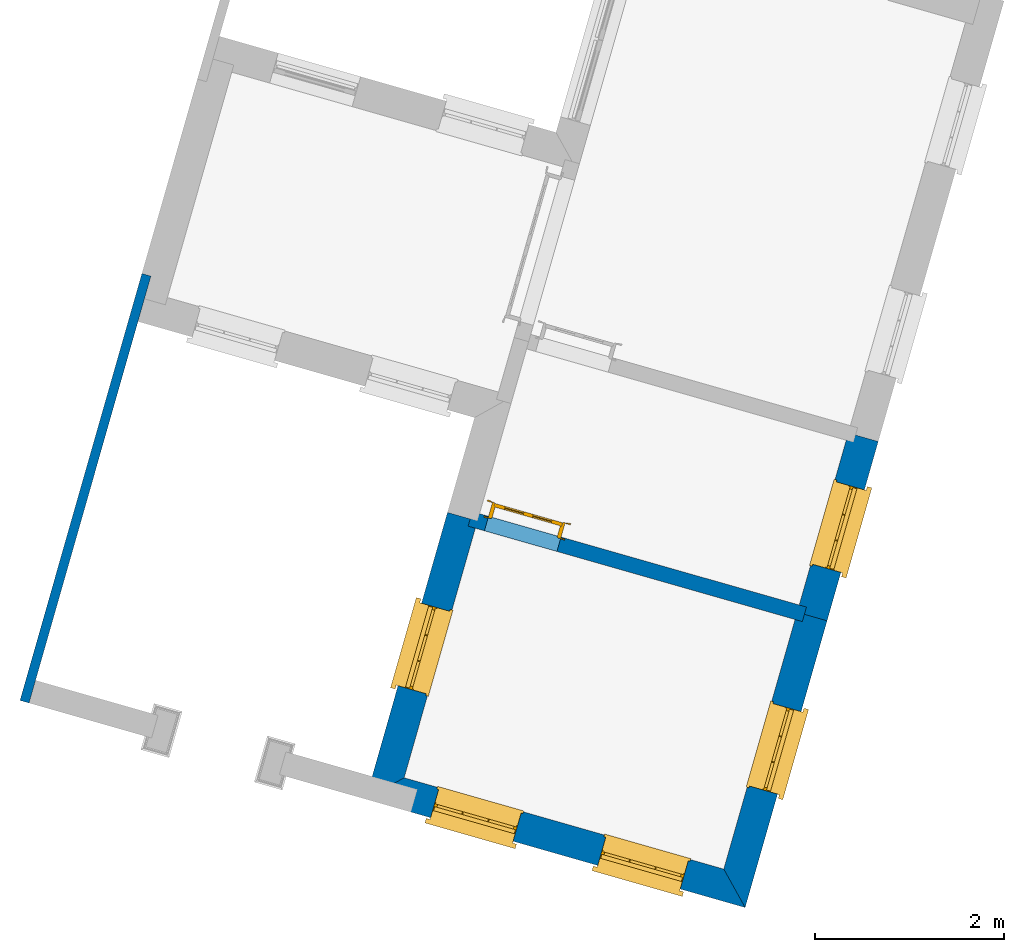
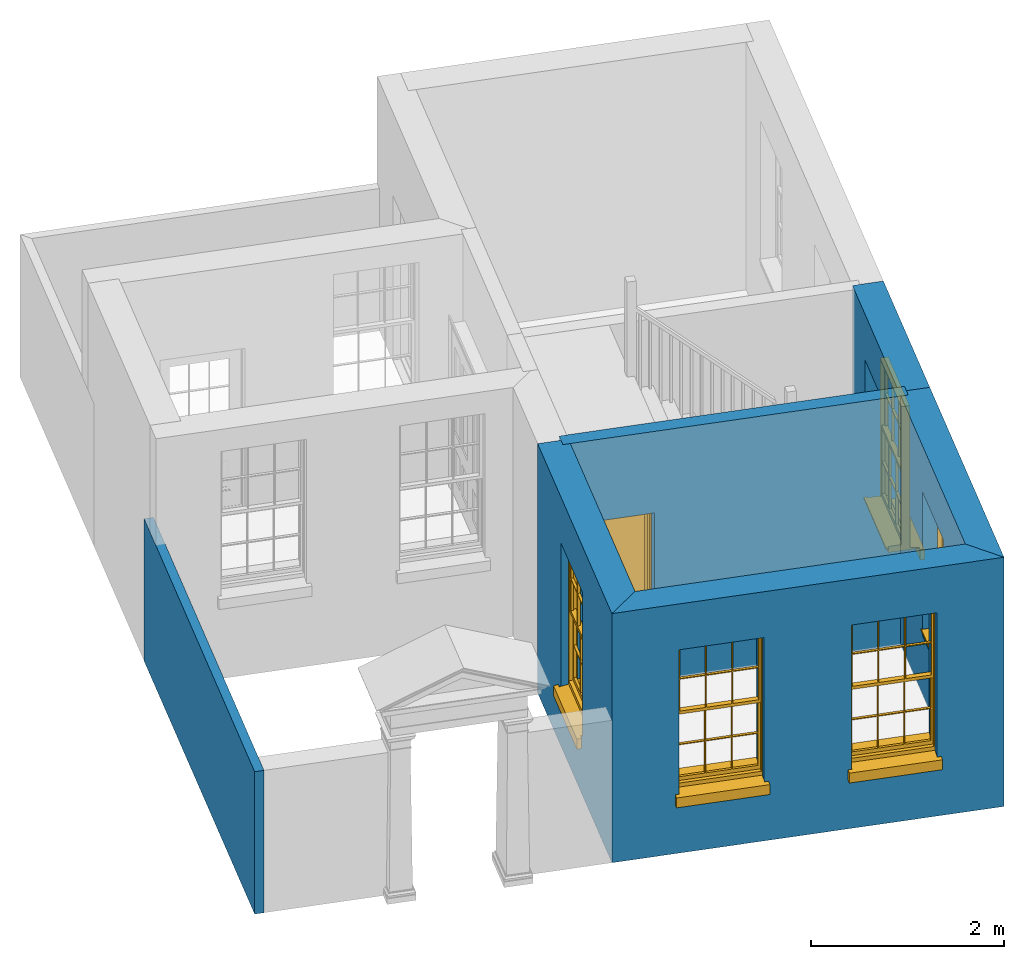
# One storey, part 3 of 7: 6 walls, 5 windows, 1 door, 6 openings.
"""IFC4 building model written with IfcOpenShell, lengths in metres."""

import ifcopenshell
import ifcopenshell.guid

model = None  # the IFC model being written
_history = None  # IfcOwnerHistory: only IFC2X3 demands one
_inside = {}  # id of a spatial element -> (the spatial element, [elements in it])
_under = {}  # id of a project, library or spatial element -> (it, [spatial elements below it])
_declared = {}  # id of a project -> (the project, [libraries it declares])
_typed = {}  # id of a type object -> (the type object, [elements of that type])
_made_of = {}  # id of a material, layer set ... -> (it, [elements and type objects made of it])


def new_model(schema):
    """Start an empty IFC model of exactly this schema.

    Asked for "IFC4X3", IfcOpenShell would pick the latest addendum, in which some entities
    have other attributes; the version numbers below select the first issue.
    IFC2X3 requires an IfcOwnerHistory on every rooted entity: one is made here for all.
    """
    global model, _history
    if schema == "IFC4X3":
        model = ifcopenshell.file(schema_version=(4, 3, 0, 0))
    else:
        model = ifcopenshell.file(schema=schema)
    _inside.clear()
    _under.clear()
    _declared.clear()
    _typed.clear()
    _made_of.clear()
    _history = None
    if model.schema == "IFC2X3":
        org = make("IfcOrganization", Name="unknown")
        user = make(
            "IfcPersonAndOrganization",
            ThePerson=make("IfcPerson", FamilyName="unknown"),
            TheOrganization=org,
        )
        app = make(
            "IfcApplication",
            ApplicationDeveloper=org,
            Version="unknown",
            ApplicationFullName="unknown",
            ApplicationIdentifier="unknown",
        )
        _history = make(
            "IfcOwnerHistory",
            OwningUser=user,
            OwningApplication=app,
            ChangeAction="ADDED",
            CreationDate=0,
        )
    return model


def make(cls, **values):
    """One entity of the class cls with the attributes given. An attribute that is None is left unset."""
    return model.create_entity(
        cls, **{name: value for name, value in values.items() if value is not None}
    )


def rooted(cls, **values):
    """An entity with a GlobalId (a new one), such as an element, a storey or a relation."""
    return make(cls, GlobalId=ifcopenshell.guid.new(), OwnerHistory=_history, **values)


def si_unit(unit_type, name, prefix=None):
    """IfcSIUnit, for example si_unit("LENGTHUNIT", "METRE", prefix="MILLI")."""
    return make("IfcSIUnit", UnitType=unit_type, Prefix=prefix, Name=name)


def assignment(units):
    """IfcUnitAssignment: the units of a project."""
    return None if units is None else make("IfcUnitAssignment", Units=units)


def point(xyz):
    """IfcCartesianPoint."""
    return None if xyz is None else make("IfcCartesianPoint", Coordinates=xyz)


def direction(xyz):
    """IfcDirection."""
    return None if xyz is None else make("IfcDirection", DirectionRatios=xyz)


def frame(location, z_axis=None, x_axis=None):
    """IfcAxis2Placement3D, a coordinate frame: its origin and axes. An axis left out is left unset."""
    return make(
        "IfcAxis2Placement3D",
        Location=point(location),
        Axis=direction(z_axis),
        RefDirection=direction(x_axis),
    )


def origin():
    """The frame at (0, 0, 0) with its axes left unset."""
    return frame((0.0, 0.0, 0.0))


def origin_with_axes():
    """The frame at (0, 0, 0) with the z axis (0, 0, 1) and the x axis (1, 0, 0) written out."""
    return frame((0.0, 0.0, 0.0), z_axis=(0.0, 0.0, 1.0), x_axis=(1.0, 0.0, 0.0))


def place(relative_to, where):
    """IfcLocalPlacement: puts the frame where relative to a parent placement (None: the world)."""
    return make(
        "IfcLocalPlacement", PlacementRelTo=relative_to, RelativePlacement=where
    )


def context(
    kind, dimensions, precision=None, world=None, true_north=None, identifier=None
):
    """IfcGeometricRepresentationContext, for example the 3D "Model" context."""
    return make(
        "IfcGeometricRepresentationContext",
        ContextIdentifier=identifier,
        ContextType=kind,
        CoordinateSpaceDimension=dimensions,
        Precision=precision,
        WorldCoordinateSystem=world,
        TrueNorth=true_north,
    )


def subcontext(parent, identifier, kind, view, scale=None):
    """IfcGeometricRepresentationSubContext, for example "Body" below "Model"."""
    return make(
        "IfcGeometricRepresentationSubContext",
        ContextIdentifier=identifier,
        ContextType=kind,
        ParentContext=parent,
        TargetScale=scale,
        TargetView=view,
    )


def project(units=None, contexts=None):
    """IfcProject with its units and contexts."""
    return rooted(
        "IfcProject",
        Name="project",
        RepresentationContexts=contexts,
        UnitsInContext=assignment(units),
    )


def spatial(cls, under=None, at=None, **own):
    """A site, building, storey or space (cls), placed at a placement, below another one or the project."""
    s = rooted(cls, ObjectPlacement=at, **own)
    if under is not None:
        _under.setdefault(under.id(), (under, []))[1].append(s)
    return s


def polyline(points):
    """IfcPolyline through the points."""
    return make("IfcPolyline", Points=[point(p) for p in points])


def outline(outer, holes=None, kind="AREA"):
    """IfcArbitraryClosedProfileDef: a profile drawn as a closed curve; with holes, ...WithVoids."""
    if holes is None:
        return make("IfcArbitraryClosedProfileDef", ProfileType=kind, OuterCurve=outer)
    return make(
        "IfcArbitraryProfileDefWithVoids",
        ProfileType=kind,
        OuterCurve=outer,
        InnerCurves=holes,
    )


def extrude(swept, where, along, depth):
    """IfcExtrudedAreaSolid: the profile swept, set in the frame where, extruded along a direction by depth."""
    return make(
        "IfcExtrudedAreaSolid",
        SweptArea=swept,
        Position=where,
        ExtrudedDirection=direction(along),
        Depth=depth,
    )


def faces_of(points, faces, orient=None, outer=None):
    """IfcFace entities. A face is a list of loops; a loop is a list of indices into points, from 0.

    orient and outer hold one flag for each loop. By default every Orientation is true, the
    first loop of a face is its IfcFaceOuterBound and the others are IfcFaceBound.
    """
    made = []
    for i, loops in enumerate(faces):
        bounds = []
        for j, loop in enumerate(loops):
            is_outer = j == 0 if outer is None else outer[i][j]
            bounds.append(
                make(
                    "IfcFaceOuterBound" if is_outer else "IfcFaceBound",
                    Bound=make("IfcPolyLoop", Polygon=[points[k] for k in loop]),
                    Orientation=True if orient is None else orient[i][j],
                )
            )
        made.append(make("IfcFace", Bounds=bounds))
    return made


def faceted_brep(points, faces, orient=None, outer=None, voids=None):
    """IfcFacetedBrep: a solid bounded by flat faces; with voids (closed shells), ...WithVoids."""
    shared = [point(p) for p in points]
    hull = make("IfcClosedShell", CfsFaces=faces_of(shared, faces, orient, outer))
    if voids is None:
        return make("IfcFacetedBrep", Outer=hull)
    return make(
        "IfcFacetedBrepWithVoids",
        Outer=hull,
        Voids=[
            make(cls, CfsFaces=faces_of(shared, fs, o, b)) for cls, fs, o, b in voids
        ],
    )


def shape(context_of_items, identifier, shape_type, items):
    """IfcShapeRepresentation: the items that make up one representation, for example the "Body"."""
    return make(
        "IfcShapeRepresentation",
        ContextOfItems=context_of_items,
        RepresentationIdentifier=identifier,
        RepresentationType=shape_type,
        Items=items,
    )


def source(mapping_origin, context_of_items, identifier, shape_type, items):
    """IfcRepresentationMap: a shape defined once, which mapped items show again and again."""
    return make(
        "IfcRepresentationMap",
        MappingOrigin=mapping_origin,
        MappedRepresentation=shape(context_of_items, identifier, shape_type, items),
    )


def transform(
    local_origin,
    x_axis=None,
    y_axis=None,
    z_axis=None,
    scale=None,
    scale2=None,
    scale3=None,
    uniform=True,
):
    """IfcCartesianTransformationOperator3D, or its non-uniform kind. x_axis, y_axis, z_axis: its Axis1, 2, 3."""
    if uniform:
        return make(
            "IfcCartesianTransformationOperator3D",
            Axis1=direction(x_axis),
            Axis2=direction(y_axis),
            LocalOrigin=point(local_origin),
            Scale=scale,
            Axis3=direction(z_axis),
        )
    return make(
        "IfcCartesianTransformationOperator3DnonUniform",
        Axis1=direction(x_axis),
        Axis2=direction(y_axis),
        LocalOrigin=point(local_origin),
        Scale=scale,
        Axis3=direction(z_axis),
        Scale2=scale2,
        Scale3=scale3,
    )


def mapped(mapping_source, mapping_target):
    """IfcMappedItem: shows the shape of a source again, moved by a transform."""
    return make(
        "IfcMappedItem", MappingSource=mapping_source, MappingTarget=mapping_target
    )


def material(Name=None, Category=None):
    """IfcMaterial."""
    return make("IfcMaterial", Name=Name, Category=Category)


def layer(
    of_material, thickness, ventilated=None, Name=None, Category=None, Priority=None
):
    """IfcMaterialLayer: one layer of a wall or slab, of a material (None: an air gap)."""
    return make(
        "IfcMaterialLayer",
        Material=of_material,
        LayerThickness=thickness,
        IsVentilated=ventilated,
        Name=Name,
        Category=Category,
        Priority=Priority,
    )


def layer_set(layers, Name=None):
    """IfcMaterialLayerSet."""
    return make("IfcMaterialLayerSet", MaterialLayers=layers, LayerSetName=Name)


def layer_usage(for_layer_set, set_direction, sense, offset, extent=None):
    """IfcMaterialLayerSetUsage: how a layer set lies in its element."""
    return make(
        "IfcMaterialLayerSetUsage",
        ForLayerSet=for_layer_set,
        LayerSetDirection=set_direction,
        DirectionSense=sense,
        OffsetFromReferenceLine=offset,
        ReferenceExtent=extent,
    )


def made_of(thing, what):
    """Note that an element or type object is made of a material, layer set ...; save() writes the relation."""
    if what is not None:
        _made_of.setdefault(what.id(), (what, []))[1].append(thing)
    return thing


def type_object(cls, material=None, **own):
    """A type object (cls), such as IfcWallType, which elements share."""
    return made_of(rooted(cls, **own), material)


def type_shapes(of_type, sources):
    """Give a type object the sources (RepresentationMaps) that its elements show as mapped items."""
    of_type.RepresentationMaps = sources


def element(
    cls,
    number,
    at=None,
    inside=None,
    cuts=None,
    type_object=None,
    material=None,
    context=None,
    identifier="Body",
    shape_type=None,
    held_by="IfcProductDefinitionShape",
    body=None,
    shapes=None,
    **own,
):
    """One element of the class cls, such as IfcWall. Its Tag is "e" and its number.

    at: its placement. inside: the storey or other place that contains it. cuts: it is an
    opening in that element (IfcRelVoidsElement). A single representation is given by context,
    identifier, shape_type and body (its items); several are given by shapes. held_by: the class
    of the entity that holds the representations. save() writes the other relations.
    """
    e = rooted(cls, Tag="e%d" % number, ObjectPlacement=at, **own)
    if body is not None:
        shapes = [shape(context, identifier, shape_type, body)]
    if shapes is not None:
        e.Representation = make(held_by, Representations=shapes)
    if inside is not None:
        _inside.setdefault(inside.id(), (inside, []))[1].append(e)
    if cuts is not None:
        rooted(
            "IfcRelVoidsElement", RelatingBuildingElement=cuts, RelatedOpeningElement=e
        )
    if type_object is not None:
        _typed.setdefault(type_object.id(), (type_object, []))[1].append(e)
    return made_of(e, material)


def fill(opening, filler):
    """IfcRelFillsElement: the door or window that sits in an opening."""
    return rooted(
        "IfcRelFillsElement",
        RelatingOpeningElement=opening,
        RelatedBuildingElement=filler,
    )


def aggregate(whole, parts):
    """IfcRelAggregates: a whole, such as a stair, and the parts it consists of."""
    return rooted("IfcRelAggregates", RelatingObject=whole, RelatedObjects=parts)


def save(model, path):
    """Write the relations noted so far, then the file.

    IfcRelAggregates (storeys below a building ...), IfcRelContainedInSpatialStructure (elements
    in a storey), IfcRelDefinesByType, IfcRelAssociatesMaterial and IfcRelDeclares: one each for
    every whole, place, type object, material and project.
    """
    for whole, parts in _under.values():
        aggregate(whole, parts)
    for where, things in _inside.values():
        rooted(
            "IfcRelContainedInSpatialStructure",
            RelatedElements=things,
            RelatingStructure=where,
        )
    for kind, things in _typed.values():
        rooted("IfcRelDefinesByType", RelatedObjects=things, RelatingType=kind)
    for what, things in _made_of.values():
        rooted("IfcRelAssociatesMaterial", RelatedObjects=things, RelatingMaterial=what)
    for by, libraries in _declared.values():
        rooted("IfcRelDeclares", RelatingContext=by, RelatedDefinitions=libraries)
    model.write(path)


model = new_model("IFC4")

# Units and contexts
model_context = context("Model", 3, world=origin_with_axes())
body_context = subcontext(model_context, "Body", "Model", "MODEL_VIEW")
ifc_project = project(units=[si_unit("PLANEANGLEUNIT", "RADIAN"), si_unit("MASSUNIT", "GRAM", prefix="KILO"), si_unit("FORCEUNIT", "NEWTON", prefix="KILO"), si_unit("LENGTHUNIT", "METRE"), si_unit("AREAUNIT", "SQUARE_METRE"), si_unit("VOLUMEUNIT", "CUBIC_METRE")], contexts=[model_context, model_context])

# Sites, building, storey
site_1_placement = place(None, origin_with_axes())
site_1 = spatial("IfcSite", under=ifc_project, at=site_1_placement, Name="Tamar")
site_2_placement = place(site_1_placement, origin_with_axes())
site_2 = spatial("IfcSite", under=site_1, at=site_2_placement, Name="Site plot-20", CompositionType="ELEMENT")
building_placement = place(None, origin_with_axes())
building = spatial("IfcBuilding", under=site_2, at=building_placement, Name="Building plot-20", CompositionType="ELEMENT")
storey_placement = place(None, frame((0.0, 0.0, 26.0), z_axis=(0.0, 0.0, 1.0), x_axis=(1.0, 0.0, 0.0)))
storey = spatial("IfcBuildingStorey", under=building, at=storey_placement, Name="plot-20 0", CompositionType="ELEMENT", Elevation=26.0)

# Wall, opening, window
ifc_material_1 = material(Name="Masonry")
ifc_layer_1 = layer(ifc_material_1, 0.33, ventilated=False)
ifc_layer_set_1 = layer_set([ifc_layer_1], Name="exterior_0.08_0.25")
ifc_layer_usage_1 = layer_usage(ifc_layer_set_1, "AXIS2", "POSITIVE", -0.25)
wall_type_1 = type_object("IfcWallType", Name="exterior_0.08_0.25", PredefinedType="SOLIDWALL", material=ifc_layer_set_1)
wall_1_placement = place(storey_placement, frame((277.044123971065, 287.550543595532, 0.0), z_axis=(0.0, 0.0, 1.0), x_axis=(-0.274568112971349, -0.96156765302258, 0.0)))
wall_1 = element("IfcWall", 1, at=wall_1_placement, inside=storey, type_object=wall_type_1, material=ifc_layer_usage_1, Name="exterior", context=body_context, shape_type="SweptSolid", body=[
    extrude(outline(polyline([(3.14623474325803e-14, 0.079999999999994), (-1.13005395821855e-13, -0.250000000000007), (3.16306381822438, -0.249999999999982), (2.8330638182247, 0.079999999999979), (3.14623474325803e-14, 0.079999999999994)])), origin_with_axes(), (0.0, 0.0, 1.0), 3.15),
])
opening_1_placement = place(wall_1_placement, frame((1.00153190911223, 0.0, 0.75)))
opening_1 = element("IfcOpeningElement", 2, at=opening_1_placement, cuts=wall_1, Name="My Opening", ObjectType="Opening", context=body_context, shape_type="SweptSolid", body=[
    extrude(outline(polyline([(0.0, -0.269999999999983), (0.909999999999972, -0.270000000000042), (0.909999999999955, 1.10000000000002), (-1.66533453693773e-14, 1.10000000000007), (0.0, -0.269999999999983)])), origin_with_axes(), (0.0, 0.0, 1.0), 1.82),
])
window_type = type_object("IfcWindowType", Name="sash_big", PartitioningType="DOUBLE_PANEL_HORIZONTAL", PredefinedType="NOTDEFINED")
shared_shape_1 = source(origin(), body_context, "Body", "Brep", [
    faceted_brep([(0.033125, 0.145, 0.975209), (0.01, 0.145, 0.975209), (0.033125, 0.145, 1.376042), (0.876875, 0.145, 0.975209), (0.876875, 0.145, 1.376042), (0.9, 0.145, 0.975209), (0.876875, 0.145, 1.386042), (0.876875, 0.145, 1.786875), (0.9, 0.145, 1.81), (0.033125, 0.145, 1.786875), (0.033125, 0.145, 1.386042), (0.01, 0.145, 1.81), (0.876875, 0.115, 1.376042), (0.876875, 0.115, 0.975209), (0.9, 0.115, 0.937083), (0.033125, 0.115, 1.786875), (0.01, 0.115, 1.81), (0.033125, 0.115, 1.386042), (0.01, 0.115, 0.937083), (0.033125, 0.115, 0.975209), (0.033125, 0.115, 1.376042), (0.876875, 0.115, 1.786875), (0.876875, 0.115, 1.386042), (0.9, 0.115, 1.81), (0.033125, 0.145, 0.937083), (0.01, 0.145, 0.937083), (0.033125, 0.145, 0.53625), (0.876875, 0.145, 0.937083), (0.876875, 0.145, 0.53625), (0.9, 0.145, 0.937083), (0.876875, 0.145, 0.52625), (0.876875, 0.145, 0.125417), (0.9, 0.145, 0.077167), (0.033125, 0.145, 0.125417), (0.033125, 0.145, 0.52625), (0.01, 0.145, 0.077167), (-0.0425, 0.0, 0.01), (-0.0425, -0.05, 0.001667), (0.0, 0.0, 0.01), (0.9525, 0.0, 0.01), (0.91, 0.0, 0.01), (0.9525, -0.05, 0.001667), (-0.02, 0.33, 0.077167), (0.0, 0.33, 0.077167), (-0.02, 0.36, 0.077167), (0.0, 0.19, 0.077167), (0.01, 0.19, 0.077167), (0.91, 0.19, 0.077167), (0.91, 0.33, 0.077167), (0.9, 0.19, 0.077167), (0.93, 0.33, 0.077167), (0.93, 0.36, 0.077167), (0.01, 0.175, 0.975209), (0.9, 0.175, 0.975209), (0.876875, 0.175, 0.125417), (0.876875, 0.175, 0.52625), (0.9, 0.175, 0.077167), (0.876875, 0.175, 0.53625), (0.876875, 0.175, 0.937083), (0.033125, 0.175, 0.125417), (0.01, 0.175, 0.077167), (0.033125, 0.175, 0.52625), (0.033125, 0.175, 0.937083), (0.033125, 0.175, 0.53625), (-0.02, 0.33, 0.052167), (-0.02, 0.36, 0.052167), (0.93, 0.36, 0.052167), (0.93, 0.33, 0.052167), (0.91, 0.33, 0.052167), (0.0, 0.33, 0.052167), (0.91, 0.1, 0.026667), (0.0, 0.1, 0.026667), (-0.0425, -0.05, -0.123333), (0.9525, -0.05, -0.123333), (-0.0425, 0.0, -0.123333), (0.9525, 0.0, -0.123333), (0.01, 0.19, 1.81), (0.9, 0.19, 1.81), (0.0, 0.19, 1.82), (0.91, 0.19, 1.82), (0.01, 0.1, 0.077167), (0.9, 0.1, 0.077167), (0.592292, 0.145, 0.125417), (0.592292, 0.175, 0.125417), (0.317708, 0.175, 0.125417), (0.317708, 0.145, 0.125417), (0.592292, 0.145, 0.53625), (0.317708, 0.145, 0.53625), (0.317708, 0.145, 0.52625), (0.592292, 0.145, 0.52625), (0.592292, 0.175, 0.53625), (0.317708, 0.175, 0.53625), (0.592292, 0.115, 1.386042), (0.592292, 0.145, 1.386042), (0.317708, 0.145, 1.386042), (0.317708, 0.115, 1.386042), (0.317708, 0.115, 1.376042), (0.592292, 0.115, 1.376042), (0.317708, 0.145, 1.376042), (0.592292, 0.145, 1.376042), (0.602292, 0.115, 1.376042), (0.592292, 0.115, 0.975209), (0.602292, 0.115, 0.975209), (0.602292, 0.145, 0.975209), (0.592292, 0.145, 0.975209), (0.602292, 0.145, 1.376042), (0.602292, 0.175, 0.53625), (0.602292, 0.145, 0.53625), (0.317708, 0.175, 0.52625), (0.307708, 0.175, 0.125417), (0.307708, 0.175, 0.52625), (0.602292, 0.175, 0.52625), (0.602292, 0.175, 0.125417), (0.592292, 0.175, 0.52625), (0.307708, 0.175, 0.53625), (0.317708, 0.175, 0.937083), (0.307708, 0.175, 0.937083), (0.602292, 0.175, 0.937083), (0.592292, 0.175, 0.937083), (0.307708, 0.145, 0.52625), (0.307708, 0.145, 0.125417), (0.307708, 0.145, 0.53625), (0.307708, 0.145, 0.937083), (0.592292, 0.145, 0.937083), (0.317708, 0.145, 0.937083), (0.602292, 0.145, 0.937083), (0.602292, 0.145, 0.52625), (0.602292, 0.145, 0.125417), (0.307708, 0.115, 1.386042), (0.307708, 0.115, 1.376042), (0.307708, 0.115, 0.975209), (0.317708, 0.115, 0.975209), (0.317708, 0.115, 1.786875), (0.307708, 0.115, 1.786875), (0.602292, 0.115, 1.786875), (0.592292, 0.115, 1.786875), (0.602292, 0.115, 1.386042), (0.602292, 0.145, 1.386042), (0.307708, 0.145, 1.386042), (0.307708, 0.145, 1.786875), (0.317708, 0.145, 1.786875), (0.592292, 0.145, 1.786875), (0.602292, 0.145, 1.786875), (0.307708, 0.145, 1.376042), (0.317708, 0.145, 0.975209), (0.307708, 0.145, 0.975209), (0.91, 0.1, 1.82), (0.9, 0.1, 1.81), (0.01, 0.1, 1.81), (0.0, 0.1, 1.82), (0.91, 0.0, 0.0), (0.0, 0.0, 0.0), (0.91, 0.33, 0.0), (0.0, 0.33, 0.0)], [[[0, 1, 2]], [[3, 4, 5]], [[6, 7, 8]], [[9, 10, 11]], [[12, 13, 14]], [[15, 16, 17]], [[18, 19, 20]], [[21, 22, 23]], [[24, 25, 26]], [[27, 28, 29]], [[30, 31, 32]], [[33, 34, 35]], [[14, 27, 29]], [[25, 24, 18]], [[36, 37, 38]], [[39, 40, 41]], [[42, 43, 44]], [[45, 46, 43]], [[47, 48, 49]], [[50, 51, 48]], [[1, 0, 52]], [[5, 53, 3]], [[54, 55, 56]], [[57, 58, 53]], [[59, 60, 61]], [[62, 63, 52]], [[48, 43, 46, 49]], [[51, 44, 43, 48]], [[64, 42, 44, 65]], [[65, 44, 51, 66]], [[66, 51, 50, 67]], [[65, 66, 68, 69]], [[60, 56, 49, 46]], [[70, 71, 38, 40]], [[37, 41, 40, 38]], [[37, 72, 73, 41]], [[74, 75, 73, 72]], [[8, 11, 76, 77]], [[76, 78, 79, 77]], [[32, 35, 80, 81]], [[81, 80, 71, 70]], [[82, 83, 84, 85]], [[86, 87, 88, 89]], [[86, 90, 91, 87]], [[92, 93, 94, 95]], [[92, 95, 96, 97]], [[96, 98, 99, 97]], [[100, 97, 101, 102]], [[103, 104, 99, 105]], [[97, 99, 104, 101]], [[102, 103, 105, 100]], [[28, 57, 106, 107]], [[108, 84, 109, 110]], [[111, 112, 83, 113]], [[114, 110, 61, 63]], [[90, 113, 108, 91]], [[115, 91, 114, 116]], [[117, 106, 90, 118]], [[111, 106, 57, 55]], [[119, 110, 109, 120]], [[34, 61, 110, 119]], [[89, 113, 83, 82]], [[88, 108, 113, 89]], [[85, 84, 108, 88]], [[121, 114, 63, 26]], [[122, 116, 114, 121]], [[123, 118, 90, 86]], [[87, 91, 115, 124]], [[107, 106, 117, 125]], [[126, 111, 55, 30]], [[127, 112, 111, 126]], [[126, 30, 28, 107]], [[88, 119, 120, 85]], [[126, 89, 82, 127]], [[125, 123, 86, 107]], [[121, 26, 34, 119]], [[124, 122, 121, 87]], [[128, 17, 20, 129]], [[96, 129, 130, 131]], [[132, 133, 128, 95]], [[134, 135, 92, 136]], [[100, 12, 22, 136]], [[137, 6, 4, 105]], [[94, 138, 139, 140]], [[137, 93, 141, 142]], [[99, 98, 94, 93]], [[143, 2, 10, 138]], [[144, 145, 143, 98]], [[129, 143, 145, 130]], [[20, 2, 143, 129]], [[131, 144, 98, 96]], [[128, 138, 10, 17]], [[133, 139, 138, 128]], [[135, 141, 93, 92]], [[95, 94, 140, 132]], [[22, 6, 137, 136]], [[136, 137, 142, 134]], [[100, 105, 4, 12]], [[107, 86, 89, 126]], [[106, 111, 113, 90]], [[91, 108, 110, 114]], [[87, 121, 119, 88]], [[97, 100, 136, 92]], [[129, 96, 95, 128]], [[98, 143, 138, 94]], [[105, 99, 93, 137]], [[131, 101, 104, 144]], [[124, 115, 118, 123]], [[132, 140, 141, 135]], [[120, 109, 59, 33]], [[15, 9, 139, 133]], [[134, 142, 7, 21]], [[31, 54, 112, 127]], [[36, 74, 72, 37]], [[39, 41, 73, 75]], [[18, 14, 101, 131]], [[23, 16, 132, 135]], [[83, 56, 60, 84]], [[52, 53, 118, 115]], [[53, 52, 144, 104]], [[11, 8, 141, 140]], [[14, 18, 124, 123]], [[2, 1, 11, 10]], [[8, 5, 4, 6]], [[57, 53, 56, 55]], [[60, 52, 63, 61]], [[26, 25, 35, 34]], [[32, 29, 28, 30]], [[14, 23, 22, 12]], [[18, 20, 17, 16]], [[19, 0, 2, 20]], [[17, 10, 9, 15]], [[12, 4, 3, 13]], [[21, 7, 6, 22]], [[27, 58, 57, 28]], [[30, 55, 54, 31]], [[33, 59, 61, 34]], [[26, 63, 62, 24]], [[5, 8, 77, 53]], [[76, 11, 1, 52]], [[46, 45, 78, 76]], [[49, 77, 79, 47]], [[70, 146, 147, 81]], [[71, 80, 148, 149]], [[19, 130, 145, 0]], [[102, 13, 3, 103]], [[116, 122, 24, 62]], [[29, 32, 81, 14]], [[80, 35, 25, 18]], [[60, 46, 76, 52]], [[77, 49, 56, 53]], [[23, 14, 81, 147]], [[16, 148, 80, 18]], [[35, 85, 120]], [[120, 33, 35]], [[127, 82, 32]], [[32, 31, 127]], [[32, 82, 85, 35]], [[102, 101, 14]], [[14, 13, 102]], [[18, 131, 130]], [[130, 19, 18]], [[134, 21, 23]], [[23, 135, 134]], [[16, 15, 133]], [[133, 132, 16]], [[11, 140, 139]], [[139, 9, 11]], [[142, 141, 8]], [[8, 7, 142]], [[23, 147, 148, 16]], [[146, 149, 148, 147]], [[52, 115, 116]], [[116, 62, 52]], [[118, 53, 117]], [[58, 117, 53]], [[27, 125, 117, 58]], [[56, 83, 112]], [[112, 54, 56]], [[109, 84, 60]], [[60, 59, 109]], [[125, 27, 14]], [[14, 123, 125]], [[122, 124, 18]], [[18, 24, 122]], [[145, 144, 52]], [[52, 0, 145]], [[103, 3, 53]], [[53, 104, 103]], [[79, 78, 149, 146]], [[78, 45, 71, 149]], [[146, 70, 47, 79]], [[150, 75, 74, 151]], [[68, 66, 67]], [[48, 68, 67, 50]], [[69, 64, 65]], [[42, 64, 69, 43]], [[69, 68, 152, 153]], [[70, 68, 48, 47]], [[150, 152, 68, 70]], [[43, 69, 71, 45]], [[69, 153, 151, 71]], [[152, 150, 151, 153]], [[38, 151, 74, 36]], [[71, 151, 38]], [[39, 75, 150, 40]], [[40, 150, 70]]]),
])
type_shapes(window_type, [shared_shape_1])
window_1_placement = place(storey_placement, frame((276.509511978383, 286.661636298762, 0.75), z_axis=(0.0, 0.0, 1.0), x_axis=(-0.249856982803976, -0.875026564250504, 0.0)))
window_1 = element("IfcWindow", 3, at=window_1_placement, inside=storey, type_object=window_type, Name="toilet outside window", OverallHeight=1.82, OverallWidth=0.91, context=body_context, shape_type="MappedRepresentation", body=[
    mapped(shared_shape_1, transform((0.0, 0.0, 0.0), scale=1.0)),
])
fill(opening_1, window_1)

# Wall, openings, windows
wall_2_placement = place(storey_placement, frame((276.24428953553, 284.749435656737, 0.0), z_axis=(0.0, 0.0, 1.0), x_axis=(0.961567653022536, -0.274568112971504, 0.0)))
wall_2 = element("IfcWall", 4, at=wall_2_placement, inside=storey, type_object=wall_type_1, material=ifc_layer_usage_1, Name="exterior", context=body_context, shape_type="SweptSolid", body=[
    extrude(outline(polyline([(0.0799999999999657, 0.0799999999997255), (-0.24999999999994, -0.250000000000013), (3.93676876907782, -0.25000000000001), (3.60676876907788, 0.0799999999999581), (0.0799999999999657, 0.0799999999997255)])), origin_with_axes(), (0.0, 0.0, 1.0), 3.15),
])
opening_2_placement = place(wall_2_placement, frame((0.466692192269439, 0.0, 0.75)))
opening_2 = element("IfcOpeningElement", 5, at=opening_2_placement, cuts=wall_2, Name="My Opening", ObjectType="Opening", context=body_context, shape_type="SweptSolid", body=[
    extrude(outline(polyline([(0.0, -0.270000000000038), (0.910000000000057, -0.270000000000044), (0.910000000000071, 1.09999999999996), (1.36557432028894e-14, 1.09999999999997), (0.0, -0.270000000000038)])), origin_with_axes(), (0.0, 0.0, 1.0), 1.82),
])
opening_3_placement = place(wall_2_placement, frame((2.31007657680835, 0.0, 0.75)))
opening_3 = element("IfcOpeningElement", 6, at=opening_3_placement, cuts=wall_2, Name="My Opening", ObjectType="Opening", context=body_context, shape_type="SweptSolid", body=[
    extrude(outline(polyline([(0.0, -0.270000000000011), (0.910000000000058, -0.270000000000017), (0.910000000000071, 1.09999999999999), (1.37667655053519e-14, 1.1), (0.0, -0.270000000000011)])), origin_with_axes(), (0.0, 0.0, 1.0), 1.82),
])
window_2_placement = place(storey_placement, frame((276.618912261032, 284.361673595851, 0.75), z_axis=(0.0, 0.0, 1.0), x_axis=(0.875026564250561, -0.24985698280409, 0.0)))
window_2 = element("IfcWindow", 7, at=window_2_placement, inside=storey, type_object=window_type, Name="toilet street window", OverallHeight=1.82, OverallWidth=0.91, context=body_context, shape_type="MappedRepresentation", body=[
    mapped(shared_shape_1, transform((0.0, 0.0, 0.0), scale=1.0)),
])
fill(opening_2, window_2)
window_3_placement = place(storey_placement, frame((278.391451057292, 283.855539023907, 0.75), z_axis=(0.0, 0.0, 1.0), x_axis=(0.875026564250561, -0.24985698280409, 0.0)))
window_3 = element("IfcWindow", 8, at=window_3_placement, inside=storey, type_object=window_type, Name="toilet street window", OverallHeight=1.82, OverallWidth=0.91, context=body_context, shape_type="MappedRepresentation", body=[
    mapped(shared_shape_1, transform((0.0, 0.0, 0.0), scale=1.0)),
])
fill(opening_3, window_3)

# Wall, opening, window
wall_3_placement = place(storey_placement, frame((279.789367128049, 283.737166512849, 0.0), z_axis=(0.0, 0.0, 1.0), x_axis=(0.274568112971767, 0.961567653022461, 0.0)))
wall_3 = element("IfcWall", 9, at=wall_3_placement, inside=storey, type_object=wall_type_1, material=ifc_layer_usage_1, Name="exterior", context=body_context, shape_type="SweptSolid", body=[
    extrude(outline(polyline([(0.0799999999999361, 0.0799999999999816), (-0.249999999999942, -0.250000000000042), (2.9130638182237, -0.250000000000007), (2.9130638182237, 0.0799999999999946), (0.0799999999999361, 0.0799999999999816)])), origin_with_axes(), (0.0, 0.0, 1.0), 3.15),
])
opening_4_placement = place(wall_3_placement, frame((1.00153190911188, 0.0, 0.75)))
opening_4 = element("IfcOpeningElement", 10, at=opening_4_placement, cuts=wall_3, Name="My Opening", ObjectType="Opening", context=body_context, shape_type="SweptSolid", body=[
    extrude(outline(polyline([(0.0, -0.269999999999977), (0.909999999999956, -0.269999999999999), (0.909999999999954, 1.09999999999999), (-1.77635683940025e-15, 1.10000000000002), (0.0, -0.269999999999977)])), origin_with_axes(), (0.0, 0.0, 1.0), 1.82),
])
window_4_placement = place(storey_placement, frame((280.323979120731, 284.626073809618, 0.75), z_axis=(0.0, 0.0, 1.0), x_axis=(0.249856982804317, 0.87502656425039, 0.0)))
window_4 = element("IfcWindow", 11, at=window_4_placement, inside=storey, type_object=window_type, Name="toilet street window", OverallHeight=1.82, OverallWidth=0.91, context=body_context, shape_type="MappedRepresentation", body=[
    mapped(shared_shape_1, transform((0.0, 0.0, 0.0), scale=1.0)),
])
fill(opening_4, window_4)

wall_4_placement = place(storey_placement, frame((280.589201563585, 286.538274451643, 0.0), z_axis=(0.0, 0.0, 1.0), x_axis=(0.274568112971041, 0.961567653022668, 0.0)))
wall_4 = element("IfcWall", 12, at=wall_4_placement, inside=storey, type_object=wall_type_1, material=ifc_layer_usage_1, Name="exterior", context=body_context, shape_type="SweptSolid", body=[
    extrude(outline(polyline([(5.71680616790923e-14, 0.079999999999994), (-1.93330031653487e-13, -0.250000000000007), (1.97818147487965, -0.250000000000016), (1.97818147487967, 0.0799999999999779), (5.71680616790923e-14, 0.079999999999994)])), origin_with_axes(), (0.0, 0.0, 1.0), 3.15),
])
opening_5_placement = place(wall_4_placement, frame((0.534090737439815, 0.0, 0.75)))
opening_5 = element("IfcOpeningElement", 13, at=opening_5_placement, cuts=wall_4, Name="My Opening", ObjectType="Opening", context=body_context, shape_type="SweptSolid", body=[
    extrude(outline(polyline([(0.0, -0.269999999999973), (0.910000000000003, -0.270000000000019), (0.910000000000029, 1.09999999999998), (2.58681964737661e-14, 1.10000000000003), (0.0, -0.269999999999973)])), origin_with_axes(), (0.0, 0.0, 1.0), 1.82),
])
window_5_placement = place(storey_placement, frame((280.995469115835, 286.977705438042, 0.75), z_axis=(0.0, 0.0, 1.0), x_axis=(0.249856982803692, 0.875026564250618, 0.0)))
window_5 = element("IfcWindow", 14, at=window_5_placement, inside=storey, type_object=window_type, Name="circulation street window", OverallHeight=1.82, OverallWidth=0.91, context=body_context, shape_type="MappedRepresentation", body=[
    mapped(shared_shape_1, transform((0.0, 0.0, 0.0), scale=1.0)),
])
fill(opening_5, window_5)

# Wall, opening, door
ifc_material_2 = material(Name="Masonry")
ifc_layer_2 = layer(ifc_material_2, 0.16, ventilated=False)
ifc_layer_set_2 = layer_set([ifc_layer_2], Name="interior_0.08_0.08")
ifc_layer_usage_2 = layer_usage(ifc_layer_set_2, "AXIS2", "POSITIVE", -0.08)
wall_type_2 = type_object("IfcWallType", Name="interior_0.08_0.08", PredefinedType="SOLIDWALL", material=ifc_layer_set_2)
wall_5_placement = place(storey_placement, frame((277.044123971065, 287.550543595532, 0.0), z_axis=(0.0, 0.0, 1.0), x_axis=(0.961567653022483, -0.274568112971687, 0.0)))
wall_5 = element("IfcWall", 15, at=wall_5_placement, inside=storey, type_object=wall_type_2, material=ifc_layer_usage_2, Name="interior", context=body_context, shape_type="SweptSolid", body=[
    extrude(outline(polyline([(3.37997658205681e-15, 0.079999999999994), (-3.35424661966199e-15, -0.079999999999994), (3.6867687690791, -0.079999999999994), (3.68676876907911, 0.0799999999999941), (3.37997658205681e-15, 0.079999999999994)])), origin_with_axes(), (0.0, 0.0, 1.0), 3.15),
])
opening_6_placement = place(wall_5_placement, frame((0.180000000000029, 0.0, 0.0199999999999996)))
opening_6 = element("IfcOpeningElement", 16, at=opening_6_placement, cuts=wall_5, Name="My Opening", ObjectType="Opening", context=body_context, shape_type="SweptSolid", body=[
    extrude(outline(polyline([(0.0, -0.0999999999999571), (0.799999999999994, -0.0999999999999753), (0.799999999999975, 1.09999999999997), (-1.9595436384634e-14, 1.09999999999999), (0.0, -0.0999999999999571)])), origin_with_axes(), (0.0, 0.0, 1.0), 2.1),
])
door_type = type_object("IfcDoorType", Name="door_inside", OperationType="SINGLE_SWING_LEFT", PredefinedType="NOTDEFINED")
shared_shape_2 = source(origin(), body_context, "Body", "Brep", [
    faceted_brep([(0.773, 0.33, 1.895), (0.66, 0.33, 1.895), (0.66, 0.33, 2.073), (0.773, 0.33, 2.073), (0.773, 0.33, 0.82), (0.66, 0.33, 0.82), (0.45, 0.33, 1.895), (0.45, 0.33, 2.073), (0.773, 0.33, 0.62), (0.66, 0.33, 0.62), (0.66, 0.315, 0.82), (0.66, 0.315, 1.895), (0.45, 0.315, 1.895), (0.35, 0.33, 1.895), (0.35, 0.33, 2.073), (0.773, 0.33, 0.225), (0.66, 0.33, 0.225), (0.45, 0.33, 0.62), (0.45, 0.33, 0.82), (0.45, 0.315, 0.82), (0.35, 0.33, 0.82), (0.14, 0.33, 2.073), (0.14, 0.33, 1.895), (0.773, 0.33, 0.0), (0.66, 0.33, 0.0), (0.66, 0.315, 0.225), (0.66, 0.315, 0.62), (0.45, 0.315, 0.62), (0.35, 0.33, 0.62), (0.35, 0.315, 0.82), (0.35, 0.315, 1.895), (0.14, 0.315, 1.895), (0.027, 0.33, 2.073), (0.027, 0.33, 1.895), (0.773, 0.292, 0.0), (0.66, 0.292, 0.0), (0.45, 0.33, 0.0), (0.45, 0.33, 0.225), (0.45, 0.315, 0.225), (0.35, 0.33, 0.225), (0.14, 0.33, 0.82), (0.14, 0.33, 0.62), (0.14, 0.315, 0.82), (0.027, 0.33, 0.82), (0.773, 0.292, 0.225), (0.66, 0.292, 0.225), (0.45, 0.292, 0.0), (0.35, 0.33, 0.0), (0.35, 0.315, 0.225), (0.35, 0.315, 0.62), (0.14, 0.315, 0.62), (0.027, 0.33, 0.62), (0.773, 0.292, 0.62), (0.66, 0.292, 0.62), (0.45, 0.292, 0.225), (0.35, 0.292, 0.0), (0.14, 0.33, 0.225), (0.14, 0.33, 0.0), (0.14, 0.315, 0.225), (0.027, 0.33, 0.225), (0.773, 0.292, 0.82), (0.66, 0.292, 0.82), (0.66, 0.307, 0.62), (0.66, 0.307, 0.225), (0.45, 0.307, 0.225), (0.35, 0.292, 0.225), (0.14, 0.292, 0.0), (0.027, 0.33, 0.0), (0.773, 0.292, 1.895), (0.66, 0.292, 1.895), (0.45, 0.292, 0.62), (0.45, 0.292, 0.82), (0.45, 0.307, 0.62), (0.35, 0.292, 0.62), (0.14, 0.292, 0.225), (0.027, 0.292, 0.0), (0.773, 0.292, 2.073), (0.66, 0.292, 2.073), (0.66, 0.307, 1.895), (0.66, 0.307, 0.82), (0.45, 0.307, 0.82), (0.35, 0.292, 0.82), (0.35, 0.307, 0.62), (0.35, 0.307, 0.225), (0.14, 0.307, 0.225), (0.027, 0.292, 0.225), (0.45, 0.292, 1.895), (0.45, 0.292, 2.073), (0.45, 0.307, 1.895), (0.35, 0.292, 1.895), (0.14, 0.292, 0.82), (0.14, 0.292, 0.62), (0.14, 0.307, 0.62), (0.027, 0.292, 0.62), (0.35, 0.292, 2.073), (0.35, 0.307, 1.895), (0.35, 0.307, 0.82), (0.14, 0.307, 0.82), (0.027, 0.292, 0.82), (0.14, 0.292, 2.073), (0.14, 0.292, 1.895), (0.14, 0.307, 1.895), (0.027, 0.292, 1.895), (0.027, 0.292, 2.073), (0.02, 0.335, 0.0), (0.005, 0.34, 0.0), (0.005, 0.34, 2.095), (0.02, 0.335, 2.08), (0.02, 0.33, 0.0), (0.0, 0.335, 0.0), (0.0, 0.335, 2.1), (0.795, 0.34, 2.095), (0.78, 0.335, 2.08), (0.02, 0.33, 2.08), (0.0, 0.33, 0.0), (-0.032, 0.345, 0.0), (-0.032, 0.345, 2.132), (0.8, 0.335, 2.1), (0.795, 0.34, 0.0), (0.78, 0.335, 0.0), (0.78, 0.33, 2.08), (0.04, 0.29, 0.0), (0.025, 0.29, 0.0), (0.025, 0.29, 2.075), (0.04, 0.29, 2.06), (-0.04, 0.34, 0.0), (-0.04, 0.34, 2.14), (0.832, 0.345, 2.132), (0.8, 0.335, 0.0), (0.78, 0.33, 0.0), (0.8, 0.33, 0.0), (0.86, 0.33, 0.0), (0.86, 0.33, 2.16), (0.8, 0.33, 2.1), (-0.06, 0.33, 2.16), (0.0, 0.33, 2.1), (-0.06, 0.33, 0.0), (-0.04, 0.345, 0.0), (-0.04, 0.345, 2.14), (0.84, 0.34, 2.14), (0.832, 0.345, 0.0), (0.84, 0.34, 0.0), (0.86, 0.345, 0.0), (0.86, 0.345, 2.16), (-0.06, 0.345, 2.16), (-0.06, 0.345, 0.0), (0.84, 0.345, 0.0), (0.84, 0.345, 2.14), (-0.025, 0.155, 0.0), (-0.025, 0.16, 0.0), (-0.025, 0.16, 2.125), (-0.025, 0.155, 2.125), (-0.017, 0.155, 0.0), (-0.017, 0.155, 2.117), (0.825, 0.16, 2.125), (0.825, 0.155, 2.125), (0.825, 0.155, 0.0), (0.845, 0.155, 0.0), (-0.045, 0.155, 2.145), (-0.045, 0.155, 0.0), (0.845, 0.155, 2.145), (0.015, 0.165, 0.0), (0.015, 0.165, 2.085), (0.817, 0.155, 2.117), (0.825, 0.16, 0.0), (0.845, 0.17, 0.0), (0.845, 0.17, 2.145), (-0.045, 0.17, 2.145), (-0.045, 0.17, 0.0), (0.02, 0.16, 0.0), (0.02, 0.16, 2.08), (0.785, 0.165, 2.085), (0.817, 0.155, 0.0), (0.8, 0.17, 0.0), (0.8, 0.17, 2.1), (0.0, 0.17, 2.1), (0.0, 0.17, 0.0), (0.035, 0.165, 0.0), (0.035, 0.165, 2.065), (0.78, 0.16, 2.08), (0.785, 0.165, 0.0), (0.775, 0.29, 2.075), (0.76, 0.29, 2.06), (0.035, 0.17, 2.065), (0.035, 0.17, 0.0), (0.765, 0.165, 2.065), (0.78, 0.16, 0.0), (0.765, 0.17, 0.0), (0.765, 0.17, 2.065), (0.765, 0.165, 0.0), (0.04, 0.17, 2.06), (0.04, 0.17, 0.0), (0.76, 0.17, 2.06), (0.76, 0.17, 0.0), (0.76, 0.29, 0.0), (0.775, 0.29, 0.0), (0.025, 0.33, 0.0), (0.025, 0.33, 2.075), (0.775, 0.33, 0.0), (0.775, 0.33, 2.075)], [[[0, 1, 2, 3]], [[1, 0, 4, 5]], [[1, 6, 7, 2]], [[8, 9, 5, 4]], [[1, 5, 10, 11]], [[6, 1, 11, 12]], [[6, 13, 14, 7]], [[15, 16, 9, 8]], [[9, 17, 18, 5]], [[5, 18, 19, 10]], [[10, 19, 12, 11]], [[18, 6, 12, 19]], [[18, 20, 13, 6]], [[21, 14, 13, 22]], [[23, 24, 16, 15]], [[9, 16, 25, 26]], [[17, 9, 26, 27]], [[17, 28, 20, 18]], [[13, 20, 29, 30]], [[22, 13, 30, 31]], [[32, 21, 22, 33]], [[34, 35, 24, 23]], [[24, 36, 37, 16]], [[16, 37, 38, 25]], [[25, 38, 27, 26]], [[37, 17, 27, 38]], [[37, 39, 28, 17]], [[40, 20, 28, 41]], [[20, 40, 42, 29]], [[31, 30, 29, 42]], [[40, 22, 31, 42]], [[33, 22, 40, 43]], [[35, 34, 44, 45]], [[35, 46, 36, 24]], [[36, 47, 39, 37]], [[28, 39, 48, 49]], [[41, 28, 49, 50]], [[43, 40, 41, 51]], [[45, 44, 52, 53]], [[46, 35, 45, 54]], [[46, 55, 47, 36]], [[56, 39, 47, 57]], [[39, 56, 58, 48]], [[50, 49, 48, 58]], [[56, 41, 50, 58]], [[51, 41, 56, 59]], [[53, 52, 60, 61]], [[45, 53, 62, 63]], [[54, 45, 63, 64]], [[55, 46, 54, 65]], [[55, 66, 57, 47]], [[59, 56, 57, 67]], [[61, 60, 68, 69]], [[70, 53, 61, 71]], [[53, 70, 72, 62]], [[72, 64, 63, 62]], [[70, 54, 64, 72]], [[65, 54, 70, 73]], [[65, 74, 66, 55]], [[67, 57, 66, 75]], [[69, 68, 76, 77]], [[61, 69, 78, 79]], [[71, 61, 79, 80]], [[73, 70, 71, 81]], [[65, 73, 82, 83]], [[74, 65, 83, 84]], [[74, 85, 75, 66]], [[86, 69, 77, 87]], [[69, 86, 88, 78]], [[88, 80, 79, 78]], [[86, 71, 80, 88]], [[81, 71, 86, 89]], [[73, 81, 90, 91]], [[73, 91, 92, 82]], [[83, 82, 92, 84]], [[91, 74, 84, 92]], [[91, 93, 85, 74]], [[89, 86, 87, 94]], [[81, 89, 95, 96]], [[90, 81, 96, 97]], [[90, 98, 93, 91]], [[94, 99, 100, 89]], [[89, 100, 101, 95]], [[101, 97, 96, 95]], [[100, 90, 97, 101]], [[100, 102, 98, 90]], [[99, 103, 102, 100]], [[32, 103, 99, 21]], [[102, 103, 32, 33]], [[98, 102, 33, 43]], [[21, 99, 94, 14]], [[94, 87, 7, 14]], [[7, 87, 77, 2]], [[76, 3, 2, 77]], [[43, 51, 93, 98]], [[51, 59, 85, 93]], [[67, 75, 85, 59]], [[34, 23, 15, 44]], [[44, 15, 8, 52]], [[52, 8, 4, 60]], [[0, 68, 60, 4]], [[0, 3, 76, 68]], [[104, 105, 106, 107]], [[104, 108, 109, 105]], [[105, 109, 110, 106]], [[107, 106, 111, 112]], [[107, 113, 108, 104]], [[114, 109, 108]], [[109, 115, 116, 110]], [[106, 110, 117, 111]], [[112, 111, 118, 119]], [[113, 107, 112, 120]], [[121, 122, 123, 124]], [[115, 109, 114, 125]], [[115, 125, 126, 116]], [[110, 116, 127, 117]], [[111, 117, 128, 118]], [[118, 128, 129, 119]], [[120, 112, 119, 129]], [[130, 129, 128]], [[130, 131, 132, 133]], [[133, 132, 134, 135]], [[135, 134, 136, 114]], [[136, 125, 114]], [[125, 137, 138, 126]], [[116, 126, 139, 127]], [[117, 127, 140, 128]], [[141, 130, 128, 140]], [[131, 130, 141]], [[131, 142, 143, 132]], [[132, 143, 144, 134]], [[134, 144, 145, 136]], [[137, 125, 136, 145]], [[143, 142, 146]], [[143, 146, 147]], [[137, 145, 144]], [[143, 147, 138]], [[138, 137, 144]], [[143, 138, 144]], [[126, 138, 147, 139]], [[127, 139, 141, 140]], [[142, 131, 141, 146]], [[139, 147, 146, 141]], [[148, 149, 150, 151]], [[149, 152, 153, 150]], [[151, 150, 154, 155]], [[155, 156, 157]], [[158, 159, 148]], [[158, 148, 151]], [[155, 157, 160]], [[158, 151, 155]], [[155, 160, 158]], [[152, 161, 162, 153]], [[150, 153, 163, 154]], [[155, 154, 164, 156]], [[156, 164, 165, 157]], [[157, 165, 166, 160]], [[160, 166, 167, 158]], [[158, 167, 168, 159]], [[161, 169, 170, 162]], [[153, 162, 171, 163]], [[154, 163, 172, 164]], [[165, 164, 173]], [[165, 173, 174, 166]], [[166, 174, 175, 167]], [[167, 175, 176, 168]], [[169, 177, 178, 170]], [[162, 170, 179, 171]], [[163, 171, 180, 172]], [[172, 180, 173, 164]], [[124, 123, 181, 182]], [[183, 178, 177, 184]], [[170, 178, 185, 179]], [[171, 179, 186, 180]], [[187, 173, 180]], [[185, 188, 187, 189]], [[188, 185, 178, 183]], [[179, 185, 189, 186]], [[189, 187, 180, 186]], [[190, 183, 184, 191]], [[192, 188, 183, 190]], [[191, 184, 122, 121]], [[124, 190, 191, 121]], [[193, 187, 188, 192]], [[182, 192, 190, 124]], [[184, 176, 122]], [[194, 195, 187, 193]], [[192, 182, 194, 193]], [[161, 176, 184]], [[114, 108, 122, 176]], [[173, 187, 195]], [[152, 149, 176, 161]], [[169, 161, 184, 177]], [[196, 122, 108]], [[176, 175, 135, 114]], [[173, 195, 129, 130]], [[176, 149, 168]], [[123, 122, 196, 197]], [[196, 108, 113, 197]], [[175, 174, 133, 135]], [[198, 129, 195]], [[133, 174, 173, 130]], [[159, 168, 149, 148]], [[181, 123, 197, 199]], [[197, 113, 120, 199]], [[199, 120, 129, 198]], [[195, 181, 199, 198]], [[195, 194, 182, 181]]]),
])
type_shapes(door_type, [shared_shape_2])
door_placement = place(storey_placement, frame((277.189749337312, 287.404964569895, 0.0199999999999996), z_axis=(0.0, 0.0, 1.0), x_axis=(0.769254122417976, -0.219654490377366, 0.0)))
door = element("IfcDoor", 17, at=door_placement, inside=storey, type_object=door_type, Name="toilet inside door", OverallHeight=2.1, OverallWidth=0.8, context=body_context, shape_type="MappedRepresentation", body=[
    mapped(shared_shape_2, transform((0.0, 0.0, 0.0), scale=1.0)),
])
fill(opening_6, door)

# Wall
ifc_material_3 = material(Name="Masonry")
ifc_layer_3 = layer(ifc_material_3, 0.1, ventilated=False)
ifc_layer_set_3 = layer_set([ifc_layer_3], Name="fence_-0.15_0.25")
ifc_layer_usage_3 = layer_usage(ifc_layer_set_3, "AXIS2", "POSITIVE", -0.25)
wall_type_3 = type_object("IfcWallType", Name="fence_-0.15_0.25", PredefinedType="SOLIDWALL", material=ifc_layer_set_3)
wall_6_placement = place(storey_placement, frame((273.733334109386, 289.843900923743, 0.0), z_axis=(0.0, 0.0, 1.0), x_axis=(-0.27456811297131, -0.961567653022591, 0.0)))
element("IfcWall", 18, at=wall_6_placement, inside=storey, type_object=wall_type_3, material=ifc_layer_usage_3, Name="fence", context=body_context, shape_type="SweptSolid", body=[
    extrude(outline(polyline([(-0.249999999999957, -0.149999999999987), (-0.249999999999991, -0.249999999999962), (4.45924471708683, -0.249999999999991), (4.45924471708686, -0.150000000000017), (-0.249999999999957, -0.149999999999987)])), origin_with_axes(), (0.0, 0.0, 1.0), 1.8),
])

save(model, "model.ifc")
